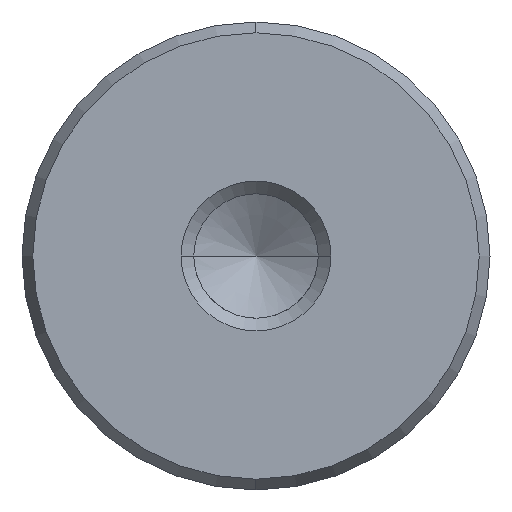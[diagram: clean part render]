
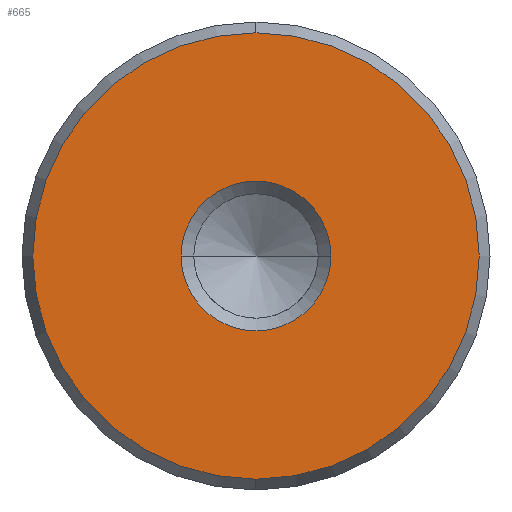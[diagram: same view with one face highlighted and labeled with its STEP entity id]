
A CAD part, left-side view. The second image highlights one B-rep face of the part: STEP entity #665.
In plain terms, the highlighted planar face has unit normal (-1, 0, 0).
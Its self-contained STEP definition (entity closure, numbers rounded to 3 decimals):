
#579=CARTESIAN_POINT('Vertex',(0.,0.,-11.923)) ;
#582=CARTESIAN_POINT('Axis2P3D Location',(0.,0.,0.)) ;
#586=CARTESIAN_POINT('Vertex',(0.,11.923,0.)) ;
#589=CARTESIAN_POINT('Axis2P3D Location',(0.,0.,0.)) ;
#593=CARTESIAN_POINT('Vertex',(0.,0.,11.923)) ;
#615=CARTESIAN_POINT('Axis2P3D Location',(0.,0.,0.)) ;
#619=CARTESIAN_POINT('Vertex',(0.,-11.923,0.)) ;
#622=CARTESIAN_POINT('Axis2P3D Location',(0.,0.,0.)) ;
#636=CARTESIAN_POINT('Axis2P3D Location',(0.,0.,0.)) ;
#647=CARTESIAN_POINT('Axis2P3D Location',(0.,0.,0.)) ;
#651=CARTESIAN_POINT('Vertex',(0.,4.,0.)) ;
#653=CARTESIAN_POINT('Vertex',(0.,-4.,0.)) ;
#656=CARTESIAN_POINT('Axis2P3D Location',(0.,0.,0.)) ;
#583=DIRECTION('Axis2P3D Direction',(1.,0.,-0.)) ;
#590=DIRECTION('Axis2P3D Direction',(1.,0.,-0.)) ;
#616=DIRECTION('Axis2P3D Direction',(1.,0.,-0.)) ;
#623=DIRECTION('Axis2P3D Direction',(1.,0.,-0.)) ;
#637=DIRECTION('Axis2P3D Direction',(1.,0.,-0.)) ;
#638=DIRECTION('Axis2P3D XDirection',(-0.,0.,-1.)) ;
#648=DIRECTION('Axis2P3D Direction',(1.,0.,-0.)) ;
#657=DIRECTION('Axis2P3D Direction',(1.,0.,-0.)) ;
#584=AXIS2_PLACEMENT_3D('Circle Axis2P3D',#582,#583,$) ;
#591=AXIS2_PLACEMENT_3D('Circle Axis2P3D',#589,#590,$) ;
#617=AXIS2_PLACEMENT_3D('Circle Axis2P3D',#615,#616,$) ;
#624=AXIS2_PLACEMENT_3D('Circle Axis2P3D',#622,#623,$) ;
#639=AXIS2_PLACEMENT_3D('Plane Axis2P3D',#636,#637,#638) ;
#649=AXIS2_PLACEMENT_3D('Circle Axis2P3D',#647,#648,$) ;
#658=AXIS2_PLACEMENT_3D('Circle Axis2P3D',#656,#657,$) ;
#642=ORIENTED_EDGE('',*,*,#588,.F.) ;
#643=ORIENTED_EDGE('',*,*,#626,.F.) ;
#644=ORIENTED_EDGE('',*,*,#621,.F.) ;
#645=ORIENTED_EDGE('',*,*,#595,.F.) ;
#662=ORIENTED_EDGE('',*,*,#655,.T.) ;
#663=ORIENTED_EDGE('',*,*,#660,.T.) ;
#664=FACE_BOUND('',#661,.T.) ;
#665=ADVANCED_FACE('720-25x315',(#646,#664),#640,.F.) ;
#585=CIRCLE('generated circle',#584,11.923) ;
#592=CIRCLE('generated circle',#591,11.923) ;
#618=CIRCLE('generated circle',#617,11.923) ;
#625=CIRCLE('generated circle',#624,11.923) ;
#650=CIRCLE('generated circle',#649,4.) ;
#659=CIRCLE('generated circle',#658,4.) ;
#588=EDGE_CURVE('',#580,#587,#585,.T.) ;
#595=EDGE_CURVE('',#587,#594,#592,.T.) ;
#621=EDGE_CURVE('',#594,#620,#618,.T.) ;
#626=EDGE_CURVE('',#620,#580,#625,.T.) ;
#655=EDGE_CURVE('',#652,#654,#650,.T.) ;
#660=EDGE_CURVE('',#654,#652,#659,.T.) ;
#641=EDGE_LOOP('',(#642,#643,#644,#645)) ;
#661=EDGE_LOOP('',(#662,#663)) ;
#646=FACE_OUTER_BOUND('',#641,.T.) ;
#640=PLANE('Plane',#639) ;
#580=VERTEX_POINT('',#579) ;
#587=VERTEX_POINT('',#586) ;
#594=VERTEX_POINT('',#593) ;
#620=VERTEX_POINT('',#619) ;
#652=VERTEX_POINT('',#651) ;
#654=VERTEX_POINT('',#653) ;
